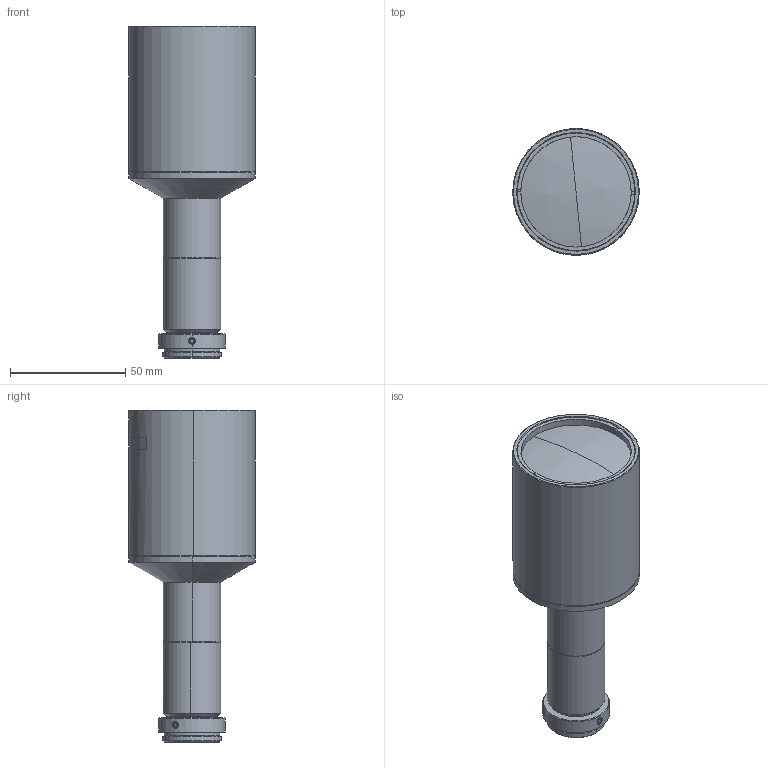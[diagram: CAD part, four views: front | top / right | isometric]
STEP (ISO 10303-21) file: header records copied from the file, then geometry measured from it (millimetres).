
FILE_DESCRIPTION (( 'STEP AP214' ), '1' );
FILE_NAME ('TEC-M03110MP_210311.STEP', '2021-03-15T02:06:01', ( '' ), ( '' ), 'SwSTEP 2.0', 'SolidWorks 2019', '' );
FILE_SCHEMA (( 'AUTOMOTIVE_DESIGN' ));
Length unit declared in the file: millimetre
Products named in the file (1): TEC-M03110MP_210311
Bounding box: 55 x 55 x 144.3 mm (x, y, z)
Volume: 72467.8 mm3; surface area: 52373.4 mm2
Topology: 14 solids, 14 shells, 393 faces, 850 edges, 520 vertices
Faces by surface type: cone 146, cylinder 132, plane 99, bspline 8, sphere 8
Entity records: 16560 total; most frequent: CARTESIAN_POINT 3262, DIRECTION 1985, ORIENTED_EDGE 1700, EDGE_CURVE 850, AXIS2_PLACEMENT_3D 808, VERTEX_POINT 520, EDGE_LOOP 450, CIRCLE 422
